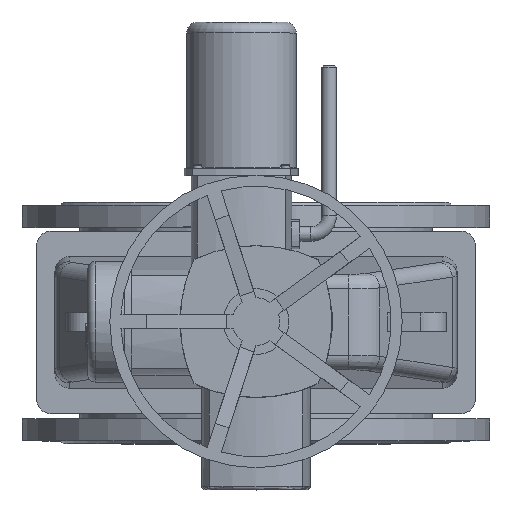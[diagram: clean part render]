
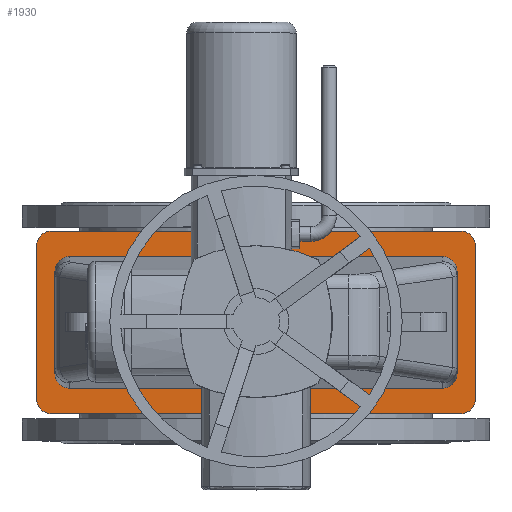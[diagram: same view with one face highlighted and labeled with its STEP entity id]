
A CAD part, top view. The second image highlights one B-rep face of the part: STEP entity #1930.
In plain terms, the highlighted planar face has unit normal (0, 0, 1).
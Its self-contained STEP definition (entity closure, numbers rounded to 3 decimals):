
#1930=ADVANCED_FACE('',(#7214,#7216),#7218,.T.);
#7214=FACE_BOUND('',#7215,.T.);
#7215=EDGE_LOOP('',(#11138,#11139,#11140,#11141,#11142,#11143,#11144,#11145));
#7216=FACE_BOUND('',#7217,.T.);
#7217=EDGE_LOOP('',(#11146,#11147,#11148,#11149,#11150,#11151,#11152,#11153));
#7218=PLANE('',#7219);
#7219=AXIS2_PLACEMENT_3D('',#7220,#7221,#7222);
#7220=CARTESIAN_POINT('',(0.,0.,566.));
#7221=DIRECTION('',(0.,-0.,1.));
#7222=DIRECTION('',(0.,1.,0.));
#11138=ORIENTED_EDGE('',*,*,#12518,.F.);
#11139=ORIENTED_EDGE('',*,*,#12531,.T.);
#11140=ORIENTED_EDGE('',*,*,#12530,.F.);
#11141=ORIENTED_EDGE('',*,*,#12528,.T.);
#11142=ORIENTED_EDGE('',*,*,#12526,.F.);
#11143=ORIENTED_EDGE('',*,*,#12524,.T.);
#11144=ORIENTED_EDGE('',*,*,#12522,.F.);
#11145=ORIENTED_EDGE('',*,*,#12519,.T.);
#11146=ORIENTED_EDGE('',*,*,#12532,.F.);
#11147=ORIENTED_EDGE('',*,*,#12533,.F.);
#11148=ORIENTED_EDGE('',*,*,#12534,.F.);
#11149=ORIENTED_EDGE('',*,*,#12535,.F.);
#11150=ORIENTED_EDGE('',*,*,#12536,.F.);
#11151=ORIENTED_EDGE('',*,*,#12537,.F.);
#11152=ORIENTED_EDGE('',*,*,#12538,.F.);
#11153=ORIENTED_EDGE('',*,*,#12539,.F.);
#12518=EDGE_CURVE('',#13796,#13794,#13798,.F.);
#12519=EDGE_CURVE('',#13799,#13794,#13800,.T.);
#12522=EDGE_CURVE('',#13799,#13802,#13804,.F.);
#12524=EDGE_CURVE('',#13805,#13802,#13807,.T.);
#12526=EDGE_CURVE('',#13805,#13808,#13810,.F.);
#12528=EDGE_CURVE('',#13811,#13808,#13813,.T.);
#12530=EDGE_CURVE('',#13811,#13814,#13816,.F.);
#12531=EDGE_CURVE('',#13796,#13814,#13817,.T.);
#12532=EDGE_CURVE('',#13818,#13819,#13820,.F.);
#12533=EDGE_CURVE('',#13821,#13818,#13822,.T.);
#12534=EDGE_CURVE('',#13823,#13821,#13824,.T.);
#12535=EDGE_CURVE('',#13825,#13823,#13826,.T.);
#12536=EDGE_CURVE('',#13827,#13825,#13828,.F.);
#12537=EDGE_CURVE('',#13829,#13827,#13830,.T.);
#12538=EDGE_CURVE('',#13831,#13829,#13832,.T.);
#12539=EDGE_CURVE('',#13819,#13831,#13833,.T.);
#13794=VERTEX_POINT('',#17028);
#13796=VERTEX_POINT('',#17032);
#13798=CIRCLE('',#17036,20.);
#13799=VERTEX_POINT('',#17040);
#13800=LINE('',#17041,#17042);
#13802=VERTEX_POINT('',#17047);
#13804=CIRCLE('',#17051,20.);
#13805=VERTEX_POINT('',#17055);
#13807=LINE('',#17059,#17060);
#13808=VERTEX_POINT('',#17062);
#13810=CIRCLE('',#17066,20.);
#13811=VERTEX_POINT('',#17070);
#13813=LINE('',#17074,#17075);
#13814=VERTEX_POINT('',#17077);
#13816=CIRCLE('',#17081,20.);
#13817=LINE('',#17085,#17086);
#13818=VERTEX_POINT('',#17088);
#13819=VERTEX_POINT('',#17089);
#13820=(BOUNDED_CURVE()B_SPLINE_CURVE(3,
(#17090,#17091,#17092,#17093),
.UNSPECIFIED.,.F.,.F.)B_SPLINE_CURVE_WITH_KNOTS((4,4),
(0.,1.),
.UNSPECIFIED.)CURVE()GEOMETRIC_REPRESENTATION_ITEM()RATIONAL_B_SPLINE_CURVE((1.,
0.805,0.805,1.))REPRESENTATION_ITEM(''));
#13821=VERTEX_POINT('',#17094);
#13822=LINE('',#17095,#17096);
#13823=VERTEX_POINT('',#17098);
#13824=(BOUNDED_CURVE()B_SPLINE_CURVE(3,
(#17099,#17100,#17101,#17102),
.UNSPECIFIED.,.F.,.F.)B_SPLINE_CURVE_WITH_KNOTS((4,4),
(0.,1.),
.UNSPECIFIED.)CURVE()GEOMETRIC_REPRESENTATION_ITEM()RATIONAL_B_SPLINE_CURVE((1.,
0.805,0.805,1.))REPRESENTATION_ITEM(''));
#13825=VERTEX_POINT('',#17103);
#13826=LINE('',#17104,#17105);
#13827=VERTEX_POINT('',#17107);
#13828=(BOUNDED_CURVE()B_SPLINE_CURVE(3,
(#17108,#17109,#17110,#17111),
.UNSPECIFIED.,.F.,.F.)B_SPLINE_CURVE_WITH_KNOTS((4,4),
(0.,1.),
.UNSPECIFIED.)CURVE()GEOMETRIC_REPRESENTATION_ITEM()RATIONAL_B_SPLINE_CURVE((1.,
0.805,0.805,1.))REPRESENTATION_ITEM(''));
#13829=VERTEX_POINT('',#17112);
#13830=LINE('',#17113,#17114);
#13831=VERTEX_POINT('',#17116);
#13832=(BOUNDED_CURVE()B_SPLINE_CURVE(3,
(#17117,#17118,#17119,#17120),
.UNSPECIFIED.,.F.,.F.)B_SPLINE_CURVE_WITH_KNOTS((4,4),
(0.,1.),
.UNSPECIFIED.)CURVE()GEOMETRIC_REPRESENTATION_ITEM()RATIONAL_B_SPLINE_CURVE((1.,
0.805,0.805,1.))REPRESENTATION_ITEM(''));
#13833=LINE('',#17121,#17122);
#17028=CARTESIAN_POINT('',(-300.,-105.,566.));
#17032=CARTESIAN_POINT('',(-280.,-125.,566.));
#17036=AXIS2_PLACEMENT_3D('',#17037,#17038,#17039);
#17037=CARTESIAN_POINT('',(-280.,-105.,566.));
#17038=DIRECTION('',(0.,-0.,1.));
#17039=DIRECTION('',(-1.,0.,0.));
#17040=CARTESIAN_POINT('',(-300.,105.,566.));
#17041=CARTESIAN_POINT('',(-300.,105.,566.));
#17042=VECTOR('',#17043,1.);
#17043=DIRECTION('',(0.,-1.,0.));
#17047=CARTESIAN_POINT('',(-280.,125.,566.));
#17051=AXIS2_PLACEMENT_3D('',#17052,#17053,#17054);
#17052=CARTESIAN_POINT('',(-280.,105.,566.));
#17053=DIRECTION('',(0.,-0.,1.));
#17054=DIRECTION('',(0.,1.,0.));
#17055=CARTESIAN_POINT('',(280.,125.,566.));
#17059=CARTESIAN_POINT('',(280.,125.,566.));
#17060=VECTOR('',#17061,1.);
#17061=DIRECTION('',(-1.,0.,0.));
#17062=CARTESIAN_POINT('',(300.,105.,566.));
#17066=AXIS2_PLACEMENT_3D('',#17067,#17068,#17069);
#17067=CARTESIAN_POINT('',(280.,105.,566.));
#17068=DIRECTION('',(0.,-0.,1.));
#17069=DIRECTION('',(1.,0.,0.));
#17070=CARTESIAN_POINT('',(300.,-105.,566.));
#17074=CARTESIAN_POINT('',(300.,-105.,566.));
#17075=VECTOR('',#17076,1.);
#17076=DIRECTION('',(0.,1.,0.));
#17077=CARTESIAN_POINT('',(280.,-125.,566.));
#17081=AXIS2_PLACEMENT_3D('',#17082,#17083,#17084);
#17082=CARTESIAN_POINT('',(280.,-105.,566.));
#17083=DIRECTION('',(0.,-0.,1.));
#17084=DIRECTION('',(0.,-1.,0.));
#17085=CARTESIAN_POINT('',(-280.,-125.,566.));
#17086=VECTOR('',#17087,1.);
#17087=DIRECTION('',(1.,0.,0.));
#17088=CARTESIAN_POINT('',(255.,-90.,566.));
#17089=CARTESIAN_POINT('',(275.,-69.924,566.));
#17090=CARTESIAN_POINT('',(275.,-69.924,566.));
#17091=CARTESIAN_POINT('',(275.,-81.684,566.));
#17092=CARTESIAN_POINT('',(266.716,-90.,566.));
#17093=CARTESIAN_POINT('',(255.,-90.,566.));
#17094=CARTESIAN_POINT('',(-255.,-90.,566.));
#17095=CARTESIAN_POINT('',(-255.,-90.,566.));
#17096=VECTOR('',#17097,1.);
#17097=DIRECTION('',(1.,0.,0.));
#17098=CARTESIAN_POINT('',(-275.,-69.924,566.));
#17099=CARTESIAN_POINT('',(-275.,-69.924,566.));
#17100=CARTESIAN_POINT('',(-275.,-81.684,566.));
#17101=CARTESIAN_POINT('',(-266.716,-90.,566.));
#17102=CARTESIAN_POINT('',(-255.,-90.,566.));
#17103=CARTESIAN_POINT('',(-275.,69.924,566.));
#17104=CARTESIAN_POINT('',(-275.,69.924,566.));
#17105=VECTOR('',#17106,1.);
#17106=DIRECTION('',(0.,-1.,0.));
#17107=CARTESIAN_POINT('',(-255.,90.,566.));
#17108=CARTESIAN_POINT('',(-275.,69.924,566.));
#17109=CARTESIAN_POINT('',(-275.,81.684,566.));
#17110=CARTESIAN_POINT('',(-266.716,90.,566.));
#17111=CARTESIAN_POINT('',(-255.,90.,566.));
#17112=CARTESIAN_POINT('',(255.,90.,566.));
#17113=CARTESIAN_POINT('',(255.,90.,566.));
#17114=VECTOR('',#17115,1.);
#17115=DIRECTION('',(-1.,0.,0.));
#17116=CARTESIAN_POINT('',(275.,69.924,566.));
#17117=CARTESIAN_POINT('',(275.,69.924,566.));
#17118=CARTESIAN_POINT('',(275.,81.684,566.));
#17119=CARTESIAN_POINT('',(266.716,90.,566.));
#17120=CARTESIAN_POINT('',(255.,90.,566.));
#17121=CARTESIAN_POINT('',(275.,-69.924,566.));
#17122=VECTOR('',#17123,1.);
#17123=DIRECTION('',(0.,1.,0.));
